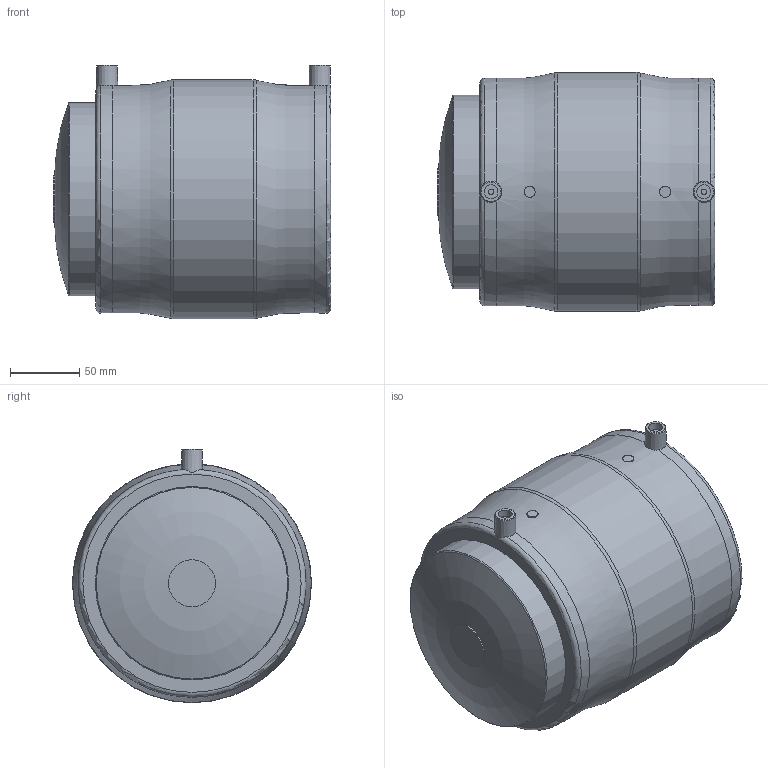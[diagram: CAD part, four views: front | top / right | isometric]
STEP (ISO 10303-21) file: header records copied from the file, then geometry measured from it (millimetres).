
FILE_DESCRIPTION(/* description */ ('Unknown'),/* implementation_level */ '2;1');
FILE_NAME(/* name */ 'CAEP140C',/* time_stamp */ '2021-02-11T10:22:19+01:00',/* author */ ('Unknown'),/* organization */ ('Unknown'),/* preprocessor_version */ 'ST-DEVELOPER v16.7',/* originating_system */ 'Solid Edge',/* authorisation */ 'Unknown');
FILE_SCHEMA (('AUTOMOTIVE_DESIGN {1 0 10303 214 3 1 1}'));
Length unit declared in the file: millimetre
Products named in the file (3): CAEP140C; MP140C; CAP140C
Assembly tree (2 placements, depth 2):
  CAEP140C
    MP140C
    CAP140C
Bounding box: 201 x 173 x 183.5 mm (x, y, z)
Volume: 1885516.5 mm3; surface area: 287453 mm2
Topology: 2 solids, 2 shells, 62 faces, 143 edges, 92 vertices
Faces by surface type: plane 27, cylinder 19, torus 12, cone 4
Full cylindrical faces by diameter (mm): 4 x2, 10 x2, 34 x1, 114.6 x1, 140 x2, 173 x1
Entity records: 1639 total; most frequent: CARTESIAN_POINT 326, DIRECTION 274, ORIENTED_EDGE 204, AXIS2_PLACEMENT_3D 119, EDGE_CURVE 102, FACE_BOUND 99, EDGE_LOOP 98, VERTEX_POINT 79
